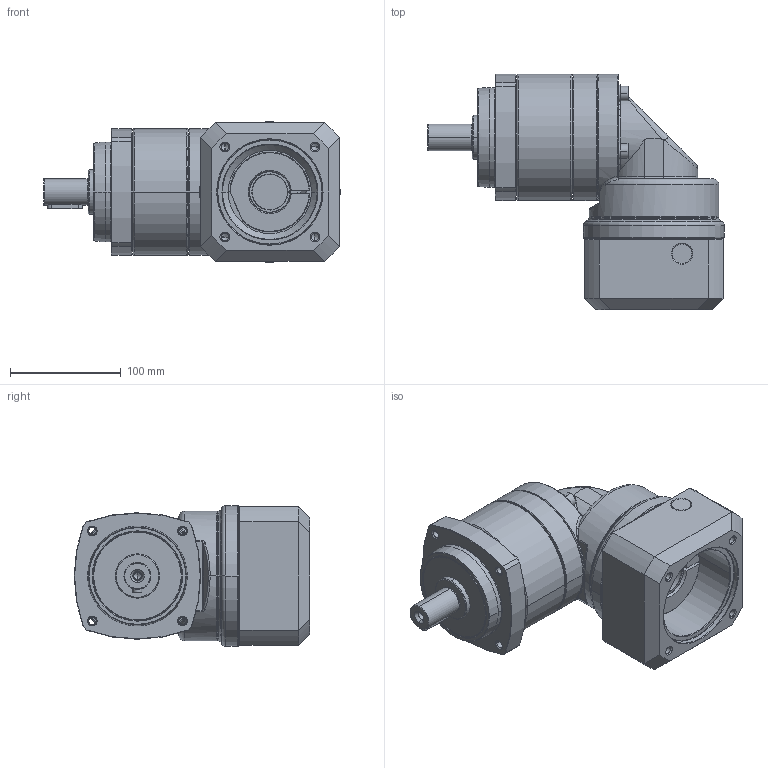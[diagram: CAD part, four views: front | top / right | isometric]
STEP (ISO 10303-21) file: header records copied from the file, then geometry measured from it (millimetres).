
FILE_DESCRIPTION((''),'2;1');
FILE_NAME('PS2R-D_1ST_32-P0411700101_ASM','2016-05-30T',('d01943'),(''),'PRO/ENGINEER BY PARAMETRIC TECHNOLOGY CORPORATION, 2008410','PRO/ENGINEER BY PARAMETRIC TECHNOLOGY CORPORATION, 2008410','');
FILE_SCHEMA(('CONFIG_CONTROL_DESIGN'));
Length unit declared in the file: millimetre
Products named in the file (12): P1328410001; P0250400001; P0350401401; P1349400001; P1017400001; P0713403001; P0503700010; P1350400301; P0411700101; P1702600001; 2111B108035; PS2R-D_1ST_32-P0411700101_ASM
Assembly tree (14 placements, depth 2):
  PS2R-D_1ST_32-P0411700101_ASM
    P1328410001
    P0250400001
    P0350401401
    P1349400001
    P1017400001
    P0713403001
    P0503700010
    P1350400301
    P0411700101
    P1702600001
    2111B108035  x4
Bounding box: 267.5 x 212.5 x 127 mm (x, y, z)
Volume: 2014810.7 mm3; surface area: 366650.1 mm2
Topology: 14 solids, 14 shells, 700 faces, 1552 edges, 900 vertices
Faces by surface type: cylinder 212, cone 208, plane 154, torus 92, bspline 34
Entity records: 22696 total; most frequent: CARTESIAN_POINT 9191, DIRECTION 2971, ORIENTED_EDGE 2628, EDGE_CURVE 1314, AXIS2_PLACEMENT_3D 1257, VERTEX_POINT 780, EDGE_LOOP 680, CIRCLE 664
